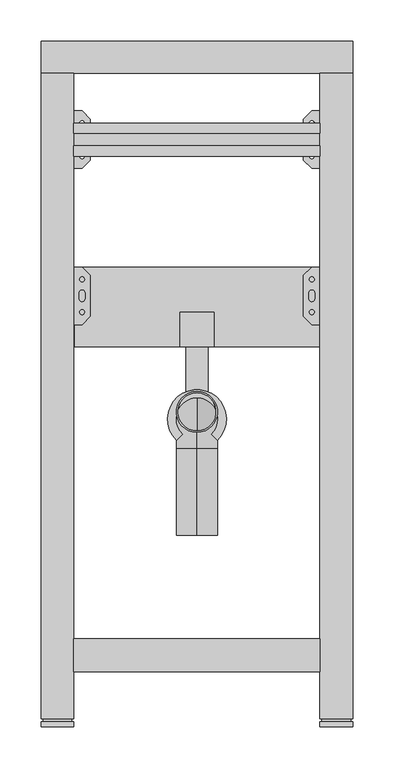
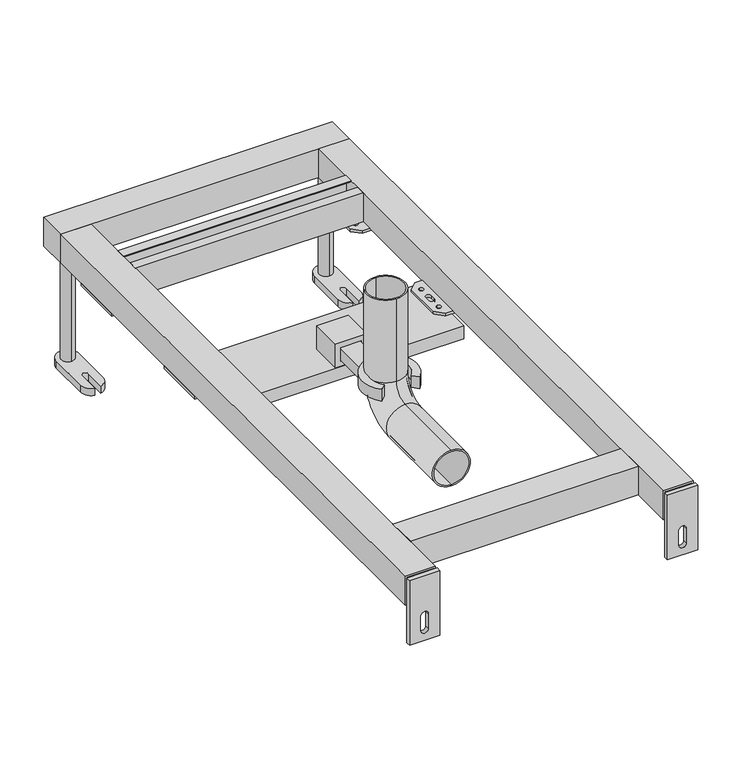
"""IFC4 building model written with IfcOpenShell, lengths in millimetres: flow terminal geometry, LIV-FIX WT 88 cm : LIV-FIX WT 88 cm."""

from ifc_helpers import new_model, si_unit, point, frame, frame_2d, origin, origin_with_axes, place, context, project, spatial, polyline, circle_curve, ellipse_curve, trimmed, segment, composite_curve, outline, extrude, source, transform, mapped, element, save
from ifc_brep_helpers import plane_surface, cylinder_surface, revolved_surface, advanced_brep


def flow_terminal_2d2501f1(model_context):
    return source(origin(), model_context, "Body", "SolidModel", [
        extrude(outline(polyline([(694.8, 200.0), (707.2845167, 200.0), (707.2845167, 198.5), (696.3, 198.5), (696.3, 161.5), (733.3, 161.5), (733.3, 198.5), (722.3154833, 198.5), (722.3154833, 200.0), (734.8, 200.0), (734.8, 160.0), (694.8, 160.0), (694.8, 200.0)])), frame((-150.0, 0.0, 0.0), z_axis=(1.0, 0.0, 0.0), x_axis=(0.0, 1.0, 0.0)), (0.0, 0.0, 1.0), 300.0),
        extrude(outline(polyline([(140.0, 679.8), (130.0, 689.8), (130.0, 739.8), (140.0, 749.8), (190.0, 749.8), (190.0, 679.8), (140.0, 679.8)]), holes=[composite_curve([segment(trimmed(circle_curve(frame_2d((175.0, 714.8)), 4.5), [point((175.0, 710.3))], [point((175.0, 719.3))], True, "CARTESIAN"), True, "CONTINUOUS"), segment(trimmed(circle_curve(frame_2d((175.0, 714.8)), 4.5), [point((175.0, 719.3))], [point((175.0, 710.3))], True, "CARTESIAN"), True, "CONTINUOUS")], self_intersect=False), composite_curve([segment(trimmed(circle_curve(frame_2d((175.0, 734.8)), 4.5), [point((175.0, 730.3))], [point((175.0, 739.3))], True, "CARTESIAN"), True, "CONTINUOUS"), segment(trimmed(circle_curve(frame_2d((175.0, 734.8)), 4.5), [point((175.0, 739.3))], [point((175.0, 730.3))], True, "CARTESIAN"), True, "CONTINUOUS")], self_intersect=False), composite_curve([segment(trimmed(circle_curve(frame_2d((175.0, 694.8)), 4.5), [point((175.0, 690.3))], [point((175.0, 699.3))], True, "CARTESIAN"), True, "CONTINUOUS"), segment(trimmed(circle_curve(frame_2d((175.0, 694.8)), 4.5), [point((175.0, 699.3))], [point((175.0, 690.3))], True, "CARTESIAN"), True, "CONTINUOUS")], self_intersect=False), composite_curve([segment(trimmed(circle_curve(frame_2d((140.0, 734.8)), 2.9795218), [point((140.0, 731.8204782))], [point((140.0, 737.7795218))], True, "CARTESIAN"), True, "CONTINUOUS"), segment(trimmed(circle_curve(frame_2d((140.0, 734.8)), 2.9795218), [point((140.0, 737.7795218))], [point((140.0, 731.8204782))], True, "CARTESIAN"), True, "CONTINUOUS")], self_intersect=False), composite_curve([segment(trimmed(circle_curve(frame_2d((140.0, 694.8)), 2.9795218), [point((140.0, 691.8204782))], [point((140.0, 697.7795218))], True, "CARTESIAN"), True, "CONTINUOUS"), segment(trimmed(circle_curve(frame_2d((140.0, 694.8)), 2.9795218), [point((140.0, 697.7795218))], [point((140.0, 691.8204782))], True, "CARTESIAN"), True, "CONTINUOUS")], self_intersect=False), composite_curve([segment(trimmed(circle_curve(frame_2d((140.0, 718.3)), 3.5), [point((143.5, 718.3))], [point((136.5, 718.3))], True, "CARTESIAN"), True, "CONTINUOUS"), segment(polyline([(136.5, 718.3), (136.5, 711.3)]), True, "CONTINUOUS"), segment(trimmed(circle_curve(frame_2d((140.0, 711.3)), 3.5), [point((136.5, 711.3))], [point((143.5, 711.3))], True, "CARTESIAN"), True, "CONTINUOUS"), segment(polyline([(143.5, 711.3), (143.5, 718.3)]), True, "CONTINUOUS")], self_intersect=False)]), frame((0.0, 0.0, 156.0), z_axis=(0.0, 0.0, 1.0), x_axis=(1.0, 0.0, 0.0)), (0.0, 0.0, 1.0), 4.0),
        extrude(outline(polyline([(-140.0, 679.8), (-190.0, 679.8), (-190.0, 749.8), (-140.0, 749.8), (-130.0, 739.8), (-130.0, 689.8), (-140.0, 679.8)]), holes=[composite_curve([segment(trimmed(circle_curve(frame_2d((-175.0, 714.8)), 4.5), [point((-175.0, 710.3))], [point((-175.0, 719.3))], True, "CARTESIAN"), True, "CONTINUOUS"), segment(trimmed(circle_curve(frame_2d((-175.0, 714.8)), 4.5), [point((-175.0, 719.3))], [point((-175.0, 710.3))], True, "CARTESIAN"), True, "CONTINUOUS")], self_intersect=False), composite_curve([segment(trimmed(circle_curve(frame_2d((-175.0, 734.8)), 4.5), [point((-175.0, 730.3))], [point((-175.0, 739.3))], True, "CARTESIAN"), True, "CONTINUOUS"), segment(trimmed(circle_curve(frame_2d((-175.0, 734.8)), 4.5), [point((-175.0, 739.3))], [point((-175.0, 730.3))], True, "CARTESIAN"), True, "CONTINUOUS")], self_intersect=False), composite_curve([segment(trimmed(circle_curve(frame_2d((-175.0, 694.8)), 4.5), [point((-175.0, 690.3))], [point((-175.0, 699.3))], True, "CARTESIAN"), True, "CONTINUOUS"), segment(trimmed(circle_curve(frame_2d((-175.0, 694.8)), 4.5), [point((-175.0, 699.3))], [point((-175.0, 690.3))], True, "CARTESIAN"), True, "CONTINUOUS")], self_intersect=False), composite_curve([segment(trimmed(circle_curve(frame_2d((-140.0, 734.8)), 2.9795218), [point((-140.0, 731.8204782))], [point((-140.0, 737.7795218))], True, "CARTESIAN"), True, "CONTINUOUS"), segment(trimmed(circle_curve(frame_2d((-140.0, 734.8)), 2.9795218), [point((-140.0, 737.7795218))], [point((-140.0, 731.8204782))], True, "CARTESIAN"), True, "CONTINUOUS")], self_intersect=False), composite_curve([segment(trimmed(circle_curve(frame_2d((-140.0, 694.8)), 2.9795218), [point((-140.0, 691.8204782))], [point((-140.0, 697.7795218))], True, "CARTESIAN"), True, "CONTINUOUS"), segment(trimmed(circle_curve(frame_2d((-140.0, 694.8)), 2.9795218), [point((-140.0, 697.7795218))], [point((-140.0, 691.8204782))], True, "CARTESIAN"), True, "CONTINUOUS")], self_intersect=False), composite_curve([segment(polyline([(-143.5, 718.3), (-143.5, 711.3)]), True, "CONTINUOUS"), segment(trimmed(circle_curve(frame_2d((-140.0, 711.3)), 3.5), [point((-143.5, 711.3))], [point((-136.5, 711.3))], True, "CARTESIAN"), True, "CONTINUOUS"), segment(polyline([(-136.5, 711.3), (-136.5, 718.3)]), True, "CONTINUOUS"), segment(trimmed(circle_curve(frame_2d((-140.0, 718.3)), 3.5), [point((-136.5, 718.3))], [point((-143.5, 718.3))], True, "CARTESIAN"), True, "CONTINUOUS")], self_intersect=False)]), frame((0.0, 0.0, 156.0), z_axis=(0.0, 0.0, 1.0), x_axis=(1.0, 0.0, 0.0)), (0.0, 0.0, 1.0), 4.0),
        advanced_brep(
        [(0.0, 233.55, 123.75), (0.0, 233.55, 173.75), (0.0, 233.55, 125.75), (0.0, 233.55, 171.75), (0.0, 338.55, 123.75), (0.0, 338.55, 173.75), (0.0, 408.55, 308.75), (0.0, 358.55, 308.75), (0.0, 406.55, 308.75), (0.0, 360.55, 308.75), (0.0, 358.55, 193.75), (0.0, 408.55, 193.75), (0.0, 338.55, 125.75), (0.0, 338.55, 171.75), (0.0, 360.55, 193.75), (0.0, 406.55, 193.75)],
        [
            (0, 1, circle_curve(frame((0.0, 233.55, 148.75), z_axis=(0.0, -1.0, 0.0), x_axis=(0.0, 0.0, 1.0)), 25.0)),
            (1, 0, circle_curve(frame((0.0, 233.55, 148.75), z_axis=(0.0, -1.0, 0.0), x_axis=(0.0, 0.0, 1.0)), 25.0)),
            (2, 3, circle_curve(frame((0.0, 233.55, 148.75), z_axis=(0.0, 1.0, 0.0), x_axis=(0.0, 0.0, 1.0)), 23.0)),
            (3, 2, circle_curve(frame((0.0, 233.55, 148.75), z_axis=(0.0, 1.0, 0.0), x_axis=(0.0, 0.0, 1.0)), 23.0)),
            (0, 4),
            (4, 5, circle_curve(frame((0.0, 338.55, 148.75), z_axis=(0.0, -1.0, 0.0), x_axis=(0.0, 0.0, 1.0)), 25.0)),
            (5, 1),
            (5, 4, circle_curve(frame((0.0, 338.55, 148.75), z_axis=(0.0, -1.0, 0.0), x_axis=(0.0, 0.0, 1.0)), 25.0)),
            (6, 7, circle_curve(frame((0.0, 383.55, 308.75), z_axis=(0.0, 0.0, 1.0), x_axis=(0.0, -1.0, 0.0)), 25.0)),
            (7, 6, circle_curve(frame((0.0, 383.55, 308.75), z_axis=(0.0, 0.0, 1.0), x_axis=(0.0, -1.0, 0.0)), 25.0)),
            (8, 9, circle_curve(frame((0.0, 383.55, 308.75), z_axis=(0.0, 0.0, -1.0), x_axis=(0.0, -1.0, 0.0)), 23.0)),
            (9, 8, circle_curve(frame((0.0, 383.55, 308.75), z_axis=(0.0, 0.0, -1.0), x_axis=(0.0, -1.0, 0.0)), 23.0)),
            (10, 11, circle_curve(frame((0.0, 383.55, 193.75), z_axis=(0.0, 0.0, 1.0), x_axis=(0.0, -1.0, 0.0)), 25.0)),
            (11, 6),
            (7, 10),
            (11, 10, circle_curve(frame((0.0, 383.55, 193.75), z_axis=(0.0, 0.0, 1.0), x_axis=(0.0, -1.0, 0.0)), 25.0)),
            (10, 5, circle_curve(frame((0.0, 338.55, 193.75), z_axis=(-1.0, 0.0, 0.0), x_axis=(0.0, 0.0, -1.0)), 20.0)),
            (4, 11, circle_curve(frame((0.0, 338.55, 193.75), z_axis=(1.0, 0.0, 0.0), x_axis=(0.0, 0.0, -1.0)), 70.0)),
            (2, 12),
            (12, 13, circle_curve(frame((0.0, 338.55, 148.75), z_axis=(0.0, 1.0, 0.0), x_axis=(0.0, 0.0, 1.0)), 23.0)),
            (13, 3),
            (13, 12, circle_curve(frame((0.0, 338.55, 148.75), z_axis=(0.0, 1.0, 0.0), x_axis=(0.0, 0.0, 1.0)), 23.0)),
            (14, 13, circle_curve(frame((0.0, 338.55, 193.75), z_axis=(-1.0, 0.0, 0.0), x_axis=(0.0, 0.0, -1.0)), 22.0)),
            (12, 15, circle_curve(frame((0.0, 338.55, 193.75), z_axis=(1.0, 0.0, 0.0), x_axis=(0.0, 0.0, -1.0)), 68.0)),
            (15, 14, circle_curve(frame((0.0, 383.55, 193.75), z_axis=(0.0, 0.0, 1.0), x_axis=(0.0, -1.0, 0.0)), 23.0)),
            (14, 15, circle_curve(frame((0.0, 383.55, 193.75), z_axis=(0.0, 0.0, 1.0), x_axis=(0.0, -1.0, 0.0)), 23.0)),
            (15, 8),
            (9, 14),
        ],
        [
            plane_surface(frame((0.0, 233.55, 148.75), z_axis=(0.0, -1.0, 0.0), x_axis=(1.0, 0.0, 0.0))),
            cylinder_surface(frame((0.0, 233.55, 148.75), z_axis=(0.0, -1.0, 0.0), x_axis=(0.0, 0.0, 1.0)), 25.0),
            plane_surface(frame((0.0, 383.55, 308.75), z_axis=(0.0, 0.0, 1.0), x_axis=(1.0, 0.0, 0.0))),
            cylinder_surface(frame((0.0, 383.55, 193.75), z_axis=(0.0, 0.0, -1.0), x_axis=(0.0, -1.0, 0.0)), 25.0),
            revolved_surface(trimmed(ellipse_curve(frame((0.0, 338.55, 148.75), z_axis=(0.0, -1.0, 0.0), x_axis=(0.0, 0.0, 1.0)), 25.0, 25.0), [point((0.0, 338.55, 123.75))], [point((0.0, 338.55, 173.75))], True, "CARTESIAN"), (0.0, 338.55, 193.75), (1.0, 0.0, 0.0)),
            revolved_surface(trimmed(ellipse_curve(frame((0.0, 338.55, 148.75), z_axis=(0.0, -1.0, 0.0), x_axis=(0.0, 0.0, 1.0)), 25.0, 25.0), [point((0.0, 338.55, 173.75))], [point((0.0, 338.55, 123.75))], True, "CARTESIAN"), (0.0, 338.55, 193.75), (1.0, 0.0, 0.0)),
            revolved_surface(polyline([(0.0, 338.55, 171.75), (0.0, 233.55, 171.75)]), (0.0, 233.55, 148.75), (0.0, 1.0, 0.0)),
            revolved_surface(trimmed(ellipse_curve(frame((0.0, 338.55, 148.75), z_axis=(0.0, 1.0, 0.0), x_axis=(0.0, 0.0, 1.0)), 23.0, 23.0), [point((0.0, 338.55, 125.75))], [point((0.0, 338.55, 171.75))], True, "CARTESIAN"), (0.0, 338.55, 193.75), (1.0, 0.0, 0.0)),
            revolved_surface(trimmed(ellipse_curve(frame((0.0, 338.55, 148.75), z_axis=(0.0, 1.0, 0.0), x_axis=(0.0, 0.0, 1.0)), 23.0, 23.0), [point((0.0, 338.55, 171.75))], [point((0.0, 338.55, 125.75))], True, "CARTESIAN"), (0.0, 338.55, 193.75), (1.0, 0.0, 0.0)),
            revolved_surface(polyline([(0.0, 360.55, 308.75), (0.0, 360.55, 193.75)]), (0.0, 383.55, 193.75), (0.0, 0.0, 1.0)),
        ],
        [
            (0, [[1, 2], [3, 4]]),
            (1, [[-1, 5, 6, 7]]),
            (1, [[-2, -7, 8, -5]]),
            (2, [[9, 10], [11, 12]]),
            (3, [[13, 14, -10, 15]]),
            (3, [[16, -15, -9, -14]]),
            (4, [[17, -6, 18, -13]]),
            (5, [[-18, -8, -17, -16]]),
            (6, [[-3, 19, 20, 21]]),
            (6, [[-4, -21, 22, -19]]),
            (7, [[23, -20, 24, 25]]),
            (8, [[-24, -22, -23, 26]]),
            (9, [[-25, 27, -12, 28]]),
            (9, [[-26, -28, -11, -27]]),
        ],
    ),
        extrude(outline(polyline([(149.0, 462.8), (-149.0, 462.8), (-149.0, 559.8), (149.0, 559.8), (149.0, 462.8)])), frame((0.0, 0.0, 138.0), z_axis=(0.0, 0.0, 1.0), x_axis=(1.0, 0.0, 0.0)), (0.0, 0.0, 1.0), 18.0),
        extrude(outline(polyline([(140.0, 489.8), (130.0, 499.8), (130.0, 549.8), (140.0, 559.8), (190.0, 559.8), (190.0, 489.8), (140.0, 489.8)]), holes=[composite_curve([segment(trimmed(circle_curve(frame_2d((175.0, 524.8)), 4.5), [point((175.0, 520.3))], [point((175.0, 529.3))], True, "CARTESIAN"), True, "CONTINUOUS"), segment(trimmed(circle_curve(frame_2d((175.0, 524.8)), 4.5), [point((175.0, 529.3))], [point((175.0, 520.3))], True, "CARTESIAN"), True, "CONTINUOUS")], self_intersect=False), composite_curve([segment(trimmed(circle_curve(frame_2d((175.0, 544.8)), 4.5), [point((175.0, 540.3))], [point((175.0, 549.3))], True, "CARTESIAN"), True, "CONTINUOUS"), segment(trimmed(circle_curve(frame_2d((175.0, 544.8)), 4.5), [point((175.0, 549.3))], [point((175.0, 540.3))], True, "CARTESIAN"), True, "CONTINUOUS")], self_intersect=False), composite_curve([segment(trimmed(circle_curve(frame_2d((175.0, 504.8)), 4.5), [point((175.0, 500.3))], [point((175.0, 509.3))], True, "CARTESIAN"), True, "CONTINUOUS"), segment(trimmed(circle_curve(frame_2d((175.0, 504.8)), 4.5), [point((175.0, 509.3))], [point((175.0, 500.3))], True, "CARTESIAN"), True, "CONTINUOUS")], self_intersect=False), composite_curve([segment(trimmed(circle_curve(frame_2d((140.0, 544.8)), 2.9795218), [point((140.0, 541.8204782))], [point((140.0, 547.7795218))], True, "CARTESIAN"), True, "CONTINUOUS"), segment(trimmed(circle_curve(frame_2d((140.0, 544.8)), 2.9795218), [point((140.0, 547.7795218))], [point((140.0, 541.8204782))], True, "CARTESIAN"), True, "CONTINUOUS")], self_intersect=False), composite_curve([segment(trimmed(circle_curve(frame_2d((140.0, 504.8)), 2.9795218), [point((140.0, 501.8204782))], [point((140.0, 507.7795218))], True, "CARTESIAN"), True, "CONTINUOUS"), segment(trimmed(circle_curve(frame_2d((140.0, 504.8)), 2.9795218), [point((140.0, 507.7795218))], [point((140.0, 501.8204782))], True, "CARTESIAN"), True, "CONTINUOUS")], self_intersect=False), composite_curve([segment(trimmed(circle_curve(frame_2d((140.0, 528.3)), 3.5), [point((143.5, 528.3))], [point((136.5, 528.3))], True, "CARTESIAN"), True, "CONTINUOUS"), segment(polyline([(136.5, 528.3), (136.5, 521.3)]), True, "CONTINUOUS"), segment(trimmed(circle_curve(frame_2d((140.0, 521.3)), 3.5), [point((136.5, 521.3))], [point((143.5, 521.3))], True, "CARTESIAN"), True, "CONTINUOUS"), segment(polyline([(143.5, 521.3), (143.5, 528.3)]), True, "CONTINUOUS")], self_intersect=False)]), frame((0.0, 0.0, 156.0), z_axis=(0.0, 0.0, 1.0), x_axis=(1.0, 0.0, 0.0)), (0.0, 0.0, 1.0), 4.0),
        extrude(outline(polyline([(-140.0, 489.8), (-190.0, 489.8), (-190.0, 559.8), (-140.0, 559.8), (-130.0, 549.8), (-130.0, 499.8), (-140.0, 489.8)]), holes=[composite_curve([segment(trimmed(circle_curve(frame_2d((-175.0, 524.8)), 4.5), [point((-175.0, 520.3))], [point((-175.0, 529.3))], True, "CARTESIAN"), True, "CONTINUOUS"), segment(trimmed(circle_curve(frame_2d((-175.0, 524.8)), 4.5), [point((-175.0, 529.3))], [point((-175.0, 520.3))], True, "CARTESIAN"), True, "CONTINUOUS")], self_intersect=False), composite_curve([segment(trimmed(circle_curve(frame_2d((-175.0, 544.8)), 4.5), [point((-175.0, 540.3))], [point((-175.0, 549.3))], True, "CARTESIAN"), True, "CONTINUOUS"), segment(trimmed(circle_curve(frame_2d((-175.0, 544.8)), 4.5), [point((-175.0, 549.3))], [point((-175.0, 540.3))], True, "CARTESIAN"), True, "CONTINUOUS")], self_intersect=False), composite_curve([segment(trimmed(circle_curve(frame_2d((-175.0, 504.8)), 4.5), [point((-175.0, 500.3))], [point((-175.0, 509.3))], True, "CARTESIAN"), True, "CONTINUOUS"), segment(trimmed(circle_curve(frame_2d((-175.0, 504.8)), 4.5), [point((-175.0, 509.3))], [point((-175.0, 500.3))], True, "CARTESIAN"), True, "CONTINUOUS")], self_intersect=False), composite_curve([segment(trimmed(circle_curve(frame_2d((-140.0, 544.8)), 2.9795218), [point((-140.0, 541.8204782))], [point((-140.0, 547.7795218))], True, "CARTESIAN"), True, "CONTINUOUS"), segment(trimmed(circle_curve(frame_2d((-140.0, 544.8)), 2.9795218), [point((-140.0, 547.7795218))], [point((-140.0, 541.8204782))], True, "CARTESIAN"), True, "CONTINUOUS")], self_intersect=False), composite_curve([segment(trimmed(circle_curve(frame_2d((-140.0, 504.8)), 2.9795218), [point((-140.0, 501.8204782))], [point((-140.0, 507.7795218))], True, "CARTESIAN"), True, "CONTINUOUS"), segment(trimmed(circle_curve(frame_2d((-140.0, 504.8)), 2.9795218), [point((-140.0, 507.7795218))], [point((-140.0, 501.8204782))], True, "CARTESIAN"), True, "CONTINUOUS")], self_intersect=False), composite_curve([segment(polyline([(-143.5, 528.3), (-143.5, 521.3)]), True, "CONTINUOUS"), segment(trimmed(circle_curve(frame_2d((-140.0, 521.3)), 3.5), [point((-143.5, 521.3))], [point((-136.5, 521.3))], True, "CARTESIAN"), True, "CONTINUOUS"), segment(polyline([(-136.5, 521.3), (-136.5, 528.3)]), True, "CONTINUOUS"), segment(trimmed(circle_curve(frame_2d((-140.0, 528.3)), 3.5), [point((-136.5, 528.3))], [point((-143.5, 528.3))], True, "CARTESIAN"), True, "CONTINUOUS")], self_intersect=False)]), frame((0.0, 0.0, 156.0), z_axis=(0.0, 0.0, 1.0), x_axis=(1.0, 0.0, 0.0)), (0.0, 0.0, 1.0), 4.0),
        extrude(outline(composite_curve([segment(trimmed(circle_curve(frame_2d((-170.0, 814.8)), 8.75), [point((-170.0, 806.05))], [point((-170.0, 823.55))], False, "CARTESIAN"), True, "CONTINUOUS"), segment(trimmed(circle_curve(frame_2d((-170.0, 814.8)), 8.75), [point((-170.0, 823.55))], [point((-170.0, 806.05))], False, "CARTESIAN"), True, "CONTINUOUS")], self_intersect=False)), frame((0.0, 0.0, 10.0), z_axis=(0.0, 0.0, 1.0), x_axis=(1.0, 0.0, 0.0)), (0.0, 0.0, 1.0), 150.0),
        extrude(outline(composite_curve([segment(trimmed(circle_curve(frame_2d((170.0, 814.8)), 8.75), [point((170.0, 806.05))], [point((170.0, 823.55))], False, "CARTESIAN"), True, "CONTINUOUS"), segment(trimmed(circle_curve(frame_2d((170.0, 814.8)), 8.75), [point((170.0, 823.55))], [point((170.0, 806.05))], False, "CARTESIAN"), True, "CONTINUOUS")], self_intersect=False)), frame((0.0, 0.0, 10.0), z_axis=(0.0, 0.0, 1.0), x_axis=(1.0, 0.0, 0.0)), (0.0, 0.0, 1.0), 150.0),
        extrude(outline(composite_curve([segment(trimmed(circle_curve(frame_2d((-170.0, 814.8)), 15.0), [point((-185.0, 814.8))], [point((-155.0, 814.8))], False, "CARTESIAN"), True, "CONTINUOUS"), segment(polyline([(-155.0, 814.8), (-155.0, 760.8)]), True, "CONTINUOUS"), segment(trimmed(circle_curve(frame_2d((-170.0, 760.8)), 15.0), [point((-155.0, 760.8))], [point((-166.0, 746.3431677))], False, "CARTESIAN"), True, "CONTINUOUS"), segment(polyline([(-166.0, 746.3431677), (-166.0, 775.2568323)]), True, "CONTINUOUS"), segment(trimmed(circle_curve(frame_2d((-170.0, 775.2568323)), 4.0), [point((-166.0, 775.2568323))], [point((-174.0, 775.2568323))], True, "CARTESIAN"), True, "CONTINUOUS"), segment(polyline([(-174.0, 775.2568323), (-174.0, 746.3431677)]), True, "CONTINUOUS"), segment(trimmed(circle_curve(frame_2d((-170.0, 760.8)), 15.0), [point((-174.0, 746.3431677))], [point((-185.0, 760.8))], False, "CARTESIAN"), True, "CONTINUOUS"), segment(polyline([(-185.0, 760.8), (-185.0, 814.8)]), True, "CONTINUOUS")], self_intersect=False)), origin_with_axes(), (0.0, 0.0, 1.0), 10.0),
        extrude(outline(composite_curve([segment(polyline([(185.0, 814.8), (185.0, 760.8)]), True, "CONTINUOUS"), segment(trimmed(circle_curve(frame_2d((170.0, 760.8)), 15.0), [point((185.0, 760.8))], [point((174.0, 746.3431677))], False, "CARTESIAN"), True, "CONTINUOUS"), segment(polyline([(174.0, 746.3431677), (174.0, 775.2568323)]), True, "CONTINUOUS"), segment(trimmed(circle_curve(frame_2d((170.0, 775.2568323)), 4.0), [point((174.0, 775.2568323))], [point((166.0, 775.2568323))], True, "CARTESIAN"), True, "CONTINUOUS"), segment(polyline([(166.0, 775.2568323), (166.0, 746.3431677)]), True, "CONTINUOUS"), segment(trimmed(circle_curve(frame_2d((170.0, 760.8)), 15.0), [point((166.0, 746.3431677))], [point((155.0, 760.8))], False, "CARTESIAN"), True, "CONTINUOUS"), segment(polyline([(155.0, 760.8), (155.0, 814.8)]), True, "CONTINUOUS"), segment(trimmed(circle_curve(frame_2d((170.0, 814.8)), 15.0), [point((155.0, 814.8))], [point((185.0, 814.8))], False, "CARTESIAN"), True, "CONTINUOUS")], self_intersect=False)), origin_with_axes(), (0.0, 0.0, 1.0), 10.0),
        extrude(outline(polyline([(-187.5, 549.0), (-152.5, 549.0), (-152.5, 6.0), (-187.5, 6.0), (-187.5, 549.0)])), frame((0.0, 0.0, 162.5), z_axis=(0.0, 0.0, 1.0), x_axis=(1.0, 0.0, 0.0)), (0.0, 0.0, 1.0), 35.0),
        extrude(outline(polyline([(152.4841074, 549.0), (187.4841074, 549.0), (187.4841074, 6.0), (152.4841074, 6.0), (152.4841074, 549.0)])), frame((0.0, 0.0, 162.5), z_axis=(0.0, 0.0, 1.0), x_axis=(1.0, 0.0, 0.0)), (0.0, 0.0, 1.0), 35.0),
        extrude(outline(polyline([(200.0, 190.0), (200.0, 150.0), (110.0, 150.0), (110.0, 190.0), (200.0, 190.0)]), holes=[composite_curve([segment(trimmed(circle_curve(frame_2d((145.0, 170.0)), 5.0), [point((145.0, 165.0))], [point((145.0, 175.0))], True, "CARTESIAN"), True, "CONTINUOUS"), segment(polyline([(145.0, 175.0), (125.0, 175.0)]), True, "CONTINUOUS"), segment(trimmed(circle_curve(frame_2d((125.0, 170.0)), 5.0), [point((125.0, 175.0))], [point((125.0, 165.0))], True, "CARTESIAN"), True, "CONTINUOUS"), segment(polyline([(125.0, 165.0), (145.0, 165.0)]), True, "CONTINUOUS")], self_intersect=False)]), frame((0.0, 0.0, 0.0), z_axis=(0.0, 1.0, 0.0), x_axis=(0.0, 0.0, 1.0)), (0.0, 0.0, 1.0), 6.0),
        extrude(outline(polyline([(200.0, -150.0), (200.0, -190.0), (110.0, -190.0), (110.0, -150.0), (200.0, -150.0)]), holes=[composite_curve([segment(trimmed(circle_curve(frame_2d((145.0, -170.0)), 5.0), [point((145.0, -175.0))], [point((145.0, -165.0))], True, "CARTESIAN"), True, "CONTINUOUS"), segment(polyline([(145.0, -165.0), (125.0, -165.0)]), True, "CONTINUOUS"), segment(trimmed(circle_curve(frame_2d((125.0, -170.0)), 5.0), [point((125.0, -165.0))], [point((125.0, -175.0))], True, "CARTESIAN"), True, "CONTINUOUS"), segment(polyline([(125.0, -175.0), (145.0, -175.0)]), True, "CONTINUOUS")], self_intersect=False)]), frame((0.0, 0.0, 0.0), z_axis=(0.0, 1.0, 0.0), x_axis=(0.0, 0.0, 1.0)), (0.0, 0.0, 1.0), 6.0),
        extrude(outline(polyline([(150.0, 107.0), (150.0, 67.0), (-150.0, 67.0), (-150.0, 107.0), (150.0, 107.0)])), frame((0.0, 0.0, 160.0), z_axis=(0.0, 0.0, 1.0), x_axis=(1.0, 0.0, 0.0)), (0.0, 0.0, 1.0), 40.0),
        extrude(outline(polyline([(-150.0, 10.0), (-190.0, 10.0), (-190.0, 795.911999), (-150.0, 795.911999), (-150.0, 10.0)])), frame((0.0, 0.0, 160.0), z_axis=(0.0, 0.0, 1.0), x_axis=(1.0, 0.0, 0.0)), (0.0, 0.0, 1.0), 40.0),
        extrude(outline(polyline([(190.0, 10.0), (150.0, 10.0), (150.0, 795.911999), (190.0, 795.911999), (190.0, 10.0)])), frame((0.0, 0.0, 160.0), z_axis=(0.0, 0.0, 1.0), x_axis=(1.0, 0.0, 0.0)), (0.0, 0.0, 1.0), 40.0),
        extrude(outline(polyline([(190.0, 834.8), (190.0, 795.911999), (-190.0, 795.911999), (-190.0, 834.8), (190.0, 834.8)])), frame((0.0, 0.0, 160.0), z_axis=(0.0, 0.0, 1.0), x_axis=(1.0, 0.0, 0.0)), (0.0, 0.0, 1.0), 40.0),
        extrude(outline(composite_curve([segment(polyline([(-17.8270587, 356.2188677), (-24.8992187, 349.1467077)]), True, "CONTINUOUS"), segment(trimmed(circle_curve(frame_2d((0.0, 374.8)), 35.75), [point((-24.8992187, 349.1467077))], [point((24.8992187, 349.1467077))], False, "CARTESIAN"), True, "CONTINUOUS"), segment(polyline([(24.8992187, 349.1467077), (17.8270587, 356.2188677)]), True, "CONTINUOUS"), segment(trimmed(circle_curve(frame_2d((0.0, 374.8)), 25.75), [point((17.8270587, 356.2188677))], [point((-17.8270587, 356.2188677))], True, "CARTESIAN"), True, "CONTINUOUS")], self_intersect=False)), frame((0.0, 0.0, 180.75), z_axis=(0.0, 0.0, 1.0), x_axis=(1.0, 0.0, 0.0)), (0.0, 0.0, 1.0), 16.25),
        extrude(outline(polyline([(-13.5, 504.8), (13.5, 504.8), (13.5, 400.5552373), (-13.5, 400.5552373), (-13.5, 504.8)])), frame((0.0, 0.0, 164.75), z_axis=(0.0, 0.0, 1.0), x_axis=(1.0, 0.0, 0.0)), (0.0, 0.0, 1.0), 16.0),
        extrude(outline(polyline([(189.5, 20.9285173), (189.5, -20.5714827), (156.0, -20.5714827), (156.0, 20.9285173), (189.5, 20.9285173)]), holes=[polyline([(182.0, 13.75), (163.5, 13.75), (163.5, -13.75), (182.0, -13.75), (182.0, 13.75)])]), frame((0.0, 462.8, 0.0), z_axis=(0.0, 1.0, 0.0), x_axis=(0.0, 0.0, 1.0)), (0.0, 0.0, 1.0), 42.0),
    ])


if __name__ == "__main__":
    model = new_model("IFC4")
    model_context = context("Model", 3, world=origin())
    ifc_project = project(units=[si_unit("LENGTHUNIT", "METRE", prefix="MILLI")], contexts=[model_context])
    site = spatial("IfcSite", under=ifc_project)
    building = spatial("IfcBuilding", under=site)
    placement = place(None, origin())
    flow_terminal_shape = flow_terminal_2d2501f1(model_context)
    element("IfcFlowTerminal", 1, ObjectType="LIV-FIX WT 88 cm : LIV-FIX WT 88 cm", at=placement, inside=building, context=model_context, shape_type="MappedRepresentation", body=[
        mapped(flow_terminal_shape, transform((0.0, 0.0, 0.0), x_axis=(1.0, 0.0, 0.0), y_axis=(0.0, 1.0, 0.0), z_axis=(0.0, 0.0, 1.0))),
    ])
    save(model, "model.ifc")
